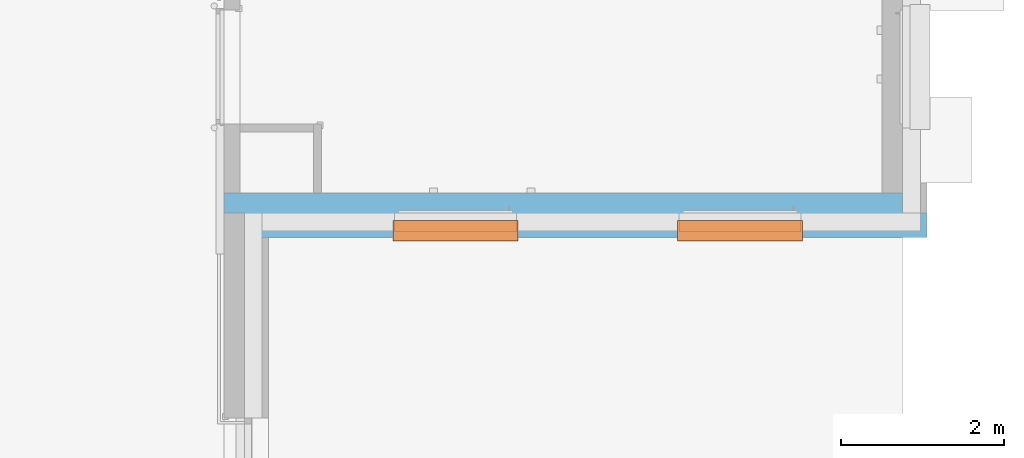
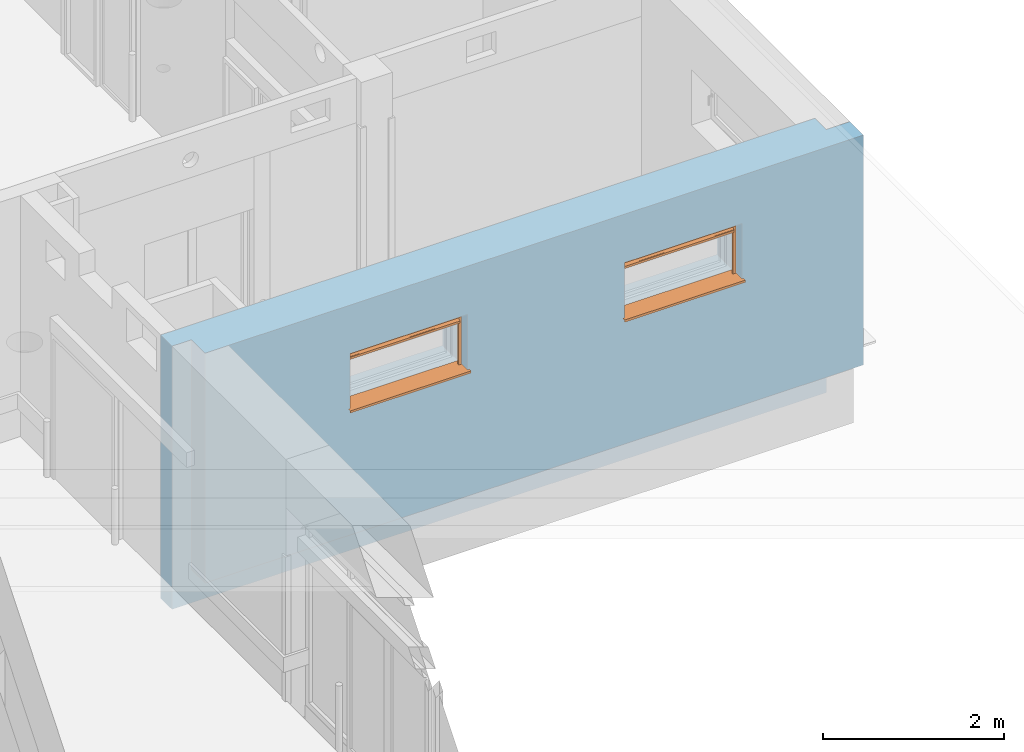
# One storey, part 108 of 140: 4 proxies, 2 openings, plus 1 element that does not belong to this part.
"""IFC4 building model written with IfcOpenShell, lengths in metres."""

from ifc_helpers import new_model, entity, si_unit, converted_unit, derived_unit, frame, origin, origin_with_axes, place, context, subcontext, project, spatial, polyline, outline, extrude, clip, bounded_halfspace, faceted_brep, source, transform, mapped, material, layer, layer_set, layer_usage, element, fill, save


model = new_model("IFC4")

# Units and contexts
model_context = context("Model", 3, precision=1e-05, world=origin())
body_context = subcontext(model_context, "Body", "Model", "MODEL_VIEW")
ifc_project = project(units=[si_unit("LENGTHUNIT", "METRE"), si_unit("AREAUNIT", "SQUARE_METRE"), si_unit("VOLUMEUNIT", "CUBIC_METRE"), si_unit("MASSUNIT", "GRAM", prefix="KILO"), converted_unit("PLANEANGLEUNIT", "DEGREE", entity("IfcPlaneAngleMeasure", 0.0174532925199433), si_unit("PLANEANGLEUNIT", "RADIAN"), dimensions=[0, 0, 0, 0, 0, 0, 0]), derived_unit("THERMALTRANSMITTANCEUNIT", [(si_unit("POWERUNIT", "WATT"), 1), (si_unit("THERMODYNAMICTEMPERATUREUNIT", "KELVIN"), -1), (si_unit("LENGTHUNIT", "METRE"), -2)]), derived_unit("VOLUMETRICFLOWRATEUNIT", [(si_unit("LENGTHUNIT", "METRE"), 3), (converted_unit("TIMEUNIT", "hour", entity("IfcTimeMeasure", 3600.0), si_unit("TIMEUNIT", "SECOND"), dimensions=[0, 0, 1, 0, 0, 0, 0]), -1), (si_unit("LENGTHUNIT", "METRE"), -1)])], contexts=[model_context])

# Site, building, storey
site_placement = place(None, origin())
site = spatial("IfcSite", under=ifc_project, at=site_placement, Name="3. ASŘ", CompositionType="ELEMENT")
building_placement = place(site_placement, origin())
building = spatial("IfcBuilding", under=site, at=building_placement, Name="Pavilon C", CompositionType="ELEMENT")
storey_placement = place(building_placement, origin())
storey = spatial("IfcBuildingStorey", under=building, at=storey_placement, Name="Půdorys 1.NP", CompositionType="ELEMENT", Elevation=0.0)

# Wall, openings, proxies
ifc_material_1 = material(Name="ZELEZOBETONOVÁ KCE")
ifc_layer_1 = layer(ifc_material_1, 0.25)
ifc_material_2 = material(Name="MINERÁLNÍ VATA")
ifc_layer_2 = layer(ifc_material_2, 0.3)
ifc_layer_set = layer_set([ifc_layer_1, ifc_layer_2])
ifc_layer_usage = layer_usage(ifc_layer_set, "AXIS2", "POSITIVE", 0.0)
wall_placement = place(storey_placement, frame((63.8, 6.59999999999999, -0.15), z_axis=(0.0, 0.0, 1.0), x_axis=(-1.0, 0.0, 0.0)))
wall = element("IfcWall", 1, at=wall_placement, inside=storey, material=ifc_layer_usage, Name="ZELEZOBETONOVÁ KCE", context=body_context, shape_type="Clipping", body=[
    clip(extrude(outline(polyline([(-8.35, -0.55), (0.0, -0.55), (0.0, -0.3), (-0.25, -0.3), (-0.25, 0.0), (-8.65, 0.0), (-8.65, -0.3), (-8.35, -0.3), (-8.35, -0.55)])), frame((8.35, 0.55, 0.0), z_axis=(0.0, 0.0, 1.0), x_axis=(1.0, 0.0, 0.0)), (0.0, 0.0, 1.0), 3.55), bounded_halfspace(frame((3.11999999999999, 0.37, 0.45), z_axis=(0.0, 0.0, 1.0), x_axis=(0.0, -1.0, 0.0)), True, origin_with_axes(), polyline([(-0.300000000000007, 0.55), (-0.300000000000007, 0.25), (-7.27595761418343e-15, 0.25), (8.09999999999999, 0.25), (8.09999999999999, 0.55), (-0.300000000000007, 0.55)]))),
])
opening_1_placement = place(wall_placement, frame((6.25, 0.25, 2.15), z_axis=(0.0, -1.0, 0.0), x_axis=(0.0, 0.0, 1.0)))
opening_1 = element("IfcOpeningElement", 2, at=opening_1_placement, cuts=wall, Name="Okenní otvor", ObjectType="Opening", context=body_context, shape_type="SweptSolid", body=[
    extrude(outline(polyline([(0.0, 1.5), (0.75, 1.5), (0.75, 0.0), (0.0, 0.0), (0.0, 1.5)])), origin_with_axes(), (0.0, 0.0, 1.0), 0.25),
    extrude(outline(polyline([(0.0, 1.5), (0.75, 1.5), (0.75, 0.0), (0.0, 0.0), (0.0, 1.5)])), frame((0.0, 0.0, -0.3), z_axis=(0.0, 0.0, 1.0), x_axis=(1.0, 0.0, 0.0)), (0.0, 0.0, 1.0), 0.3),
])
opening_2_placement = place(wall_placement, frame((2.75, 0.25, 2.15), z_axis=(0.0, -1.0, 0.0), x_axis=(0.0, 0.0, 1.0)))
opening_2 = element("IfcOpeningElement", 3, at=opening_2_placement, cuts=wall, Name="Okenní otvor", ObjectType="Opening", context=body_context, shape_type="SweptSolid", body=[
    extrude(outline(polyline([(0.0, 1.5), (0.75, 1.5), (0.75, 0.0), (0.0, 0.0), (0.0, 1.5)])), origin_with_axes(), (0.0, 0.0, 1.0), 0.25),
    extrude(outline(polyline([(0.0, 1.5), (0.75, 1.5), (0.75, 0.0), (0.0, 0.0), (0.0, 1.5)])), frame((0.0, 0.0, -0.3), z_axis=(0.0, 0.0, 1.0), x_axis=(1.0, 0.0, 0.0)), (0.0, 0.0, 1.0), 0.3),
])
ifc_material_3 = material(Name="HLINÍKOVÝ PLECH ELOXOVANÝ")
shared_shape_1 = source(origin_with_axes(), body_context, "Body", "Brep", [
    faceted_brep([(0.0, -0.3, 0.0), (0.0, -0.092, 0.0), (0.0, -0.092, 0.005), (0.0, -0.3, 0.005), (1.5, -0.3, 0.0), (1.5, -0.3, 0.005), (1.5, -0.092, 0.005), (1.5, -0.092, 0.0), (-0.02, -0.3, 0.0), (-0.02, -0.335, 0.0), (1.52, -0.335, 0.0), (1.52, -0.3, 0.0), (1.52, -0.3, 0.005), (1.52, -0.34, 0.005), (-0.02, -0.34, 0.005), (-0.02, -0.3, 0.005), (-0.02, -0.34, -0.025), (-0.02, -0.335, -0.025), (1.52, -0.335, -0.025), (1.52, -0.34, -0.025)], [[[0, 1, 2, 3]], [[4, 5, 6, 7]], [[1, 0, 8, 9, 10, 11, 4, 7]], [[2, 1, 7, 6]], [[3, 2, 6, 5, 12, 13, 14, 15]], [[8, 15, 14, 16, 17, 9]], [[11, 10, 18, 19, 13, 12]], [[15, 8, 0, 3]], [[5, 4, 11, 12]], [[16, 14, 13, 19]], [[17, 16, 19, 18]], [[9, 17, 18, 10]]], orient=[[False], [False], [False], [False], [False], [False], [False], [False], [False], [False], [False], [False]]),
    faceted_brep([(-0.02, -0.3, 0.0), (-0.02, -0.092, 0.0), (-0.02, -0.092, 0.005), (-0.02, -0.3, 0.005), (0.0, -0.3, 0.0), (0.0, -0.3, 0.005), (0.0, -0.092, 0.005), (0.0, -0.092, 0.0)], [[[0, 1, 2, 3]], [[4, 5, 6, 7]], [[1, 0, 4, 7]], [[2, 1, 7, 6]], [[3, 2, 6, 5]], [[0, 3, 5, 4]]], orient=[[False], [False], [False], [False], [False], [False]]),
    faceted_brep([(1.5, -0.3, 0.0), (1.5, -0.092, 0.0), (1.5, -0.092, 0.005), (1.5, -0.3, 0.005), (1.52, -0.3, 0.0), (1.52, -0.3, 0.005), (1.52, -0.092, 0.005), (1.52, -0.092, 0.0)], [[[0, 1, 2, 3]], [[4, 5, 6, 7]], [[1, 0, 4, 7]], [[2, 1, 7, 6]], [[3, 2, 6, 5]], [[0, 3, 5, 4]]], orient=[[False], [False], [False], [False], [False], [False]]),
])
proxy_1_placement = place(opening_1_placement, frame((0.0, 0.0, 0.0), z_axis=(1.0, 0.0, 0.0), x_axis=(0.0, 1.0, 0.0)))
proxy_1 = element("IfcBuildingElementProxy", 4, at=proxy_1_placement, inside=storey, material=ifc_material_3, Name="Parapet vnější", context=body_context, shape_type="MappedRepresentation", body=[
    mapped(shared_shape_1, transform((0.0, 0.0, 0.0), x_axis=(1.0, 0.0, 0.0), y_axis=(0.0, 1.0, 0.0), z_axis=(0.0, 0.0, 1.0), scale=1.0)),
])
fill(opening_1, proxy_1)
shared_shape_2 = source(origin_with_axes(), body_context, "Body", "Brep", [
    faceted_brep([(0.0, -0.232, 0.75), (0.0, -0.23, 0.75), (0.0, -0.23, 0.948), (0.0, -0.094, 0.948), (0.0, -0.094, 0.75), (0.0, -0.092, 0.75), (0.0, -0.092, 0.95), (0.0, -0.232, 0.95), (1.5, -0.23, 0.75), (1.5, -0.232, 0.75), (1.5, -0.232, 0.95), (1.5, -0.092, 0.95), (1.5, -0.092, 0.75), (1.5, -0.094, 0.75), (1.5, -0.094, 0.948), (1.5, -0.23, 0.948)], [[[0, 1, 2, 3, 4, 5, 6, 7]], [[8, 9, 10, 11, 12, 13, 14, 15]], [[1, 0, 9, 8]], [[2, 1, 8, 15]], [[3, 2, 15, 14]], [[4, 3, 14, 13]], [[5, 4, 13, 12]], [[6, 5, 12, 11]], [[7, 6, 11, 10]], [[0, 7, 10, 9]]], orient=[[False], [False], [False], [False], [False], [False], [False], [False], [False], [False]]),
    faceted_brep([(0.0, -0.23, 0.75), (0.0, -0.094, 0.75), (0.0, -0.094, 0.948), (0.0, -0.23, 0.948), (0.002, -0.094, 0.75), (0.002, -0.23, 0.75), (0.002, -0.23, 0.948), (0.002, -0.094, 0.948)], [[[0, 1, 2, 3]], [[4, 5, 6, 7]], [[1, 0, 5, 4]], [[2, 1, 4, 7]], [[3, 2, 7, 6]], [[0, 3, 6, 5]]], orient=[[False], [False], [False], [False], [False], [False]]),
    faceted_brep([(1.498, -0.23, 0.75), (1.498, -0.094, 0.75), (1.498, -0.094, 0.948), (1.498, -0.23, 0.948), (1.5, -0.094, 0.75), (1.5, -0.23, 0.75), (1.5, -0.23, 0.948), (1.5, -0.094, 0.948)], [[[0, 1, 2, 3]], [[4, 5, 6, 7]], [[1, 0, 5, 4]], [[2, 1, 4, 7]], [[3, 2, 7, 6]], [[0, 3, 6, 5]]], orient=[[False], [False], [False], [False], [False], [False]]),
    faceted_brep([(0.002, -0.152, 0.0), (0.002, -0.172, 0.0), (0.042, -0.172, 0.0), (0.042, -0.152, 0.0), (0.002, -0.172, 0.769), (0.002, -0.152, 0.769), (0.042, -0.152, 0.769), (0.042, -0.172, 0.769)], [[[0, 1, 2, 3]], [[4, 5, 6, 7]], [[1, 0, 5, 4]], [[2, 1, 4, 7]], [[3, 2, 7, 6]], [[0, 3, 6, 5]]], orient=[[False], [False], [False], [False], [False], [False]]),
    faceted_brep([(1.458, -0.152, 0.0), (1.458, -0.172, 0.0), (1.498, -0.172, 0.0), (1.498, -0.152, 0.0), (1.458, -0.172, 0.769), (1.458, -0.152, 0.769), (1.498, -0.152, 0.769), (1.498, -0.172, 0.769)], [[[0, 1, 2, 3]], [[4, 5, 6, 7]], [[1, 0, 5, 4]], [[2, 1, 4, 7]], [[3, 2, 7, 6]], [[0, 3, 6, 5]]], orient=[[False], [False], [False], [False], [False], [False]]),
    faceted_brep([(0.042, -0.122, 0.6021), (0.042, -0.202, 0.6021), (0.042, -0.202, 0.5871), (0.042, -0.122, 0.5871), (1.458, -0.202, 0.6021), (1.458, -0.122, 0.6021), (1.458, -0.122, 0.5871), (1.458, -0.202, 0.5871)], [[[0, 1, 2, 3]], [[4, 5, 6, 7]], [[1, 0, 5, 4]], [[2, 1, 4, 7]], [[3, 2, 7, 6]], [[0, 3, 6, 5]]], orient=[[False], [False], [False], [False], [False], [False]]),
    faceted_brep([(0.042, -0.122, 0.6031), (0.042, -0.202, 0.6031), (0.042, -0.202, 0.6021), (0.042, -0.122, 0.6021), (1.458, -0.202, 0.6031), (1.458, -0.122, 0.6031), (1.458, -0.122, 0.6021), (1.458, -0.202, 0.6021)], [[[0, 1, 2, 3]], [[4, 5, 6, 7]], [[1, 0, 5, 4]], [[2, 1, 4, 7]], [[3, 2, 7, 6]], [[0, 3, 6, 5]]], orient=[[False], [False], [False], [False], [False], [False]]),
    faceted_brep([(0.042, -0.122, 0.6041), (0.042, -0.202, 0.6041), (0.042, -0.202, 0.6031), (0.042, -0.122, 0.6031), (1.458, -0.202, 0.6041), (1.458, -0.122, 0.6041), (1.458, -0.122, 0.6031), (1.458, -0.202, 0.6031)], [[[0, 1, 2, 3]], [[4, 5, 6, 7]], [[1, 0, 5, 4]], [[2, 1, 4, 7]], [[3, 2, 7, 6]], [[0, 3, 6, 5]]], orient=[[False], [False], [False], [False], [False], [False]]),
    faceted_brep([(0.042, -0.122, 0.6051), (0.042, -0.202, 0.6051), (0.042, -0.202, 0.6041), (0.042, -0.122, 0.6041), (1.458, -0.202, 0.6051), (1.458, -0.122, 0.6051), (1.458, -0.122, 0.6041), (1.458, -0.202, 0.6041)], [[[0, 1, 2, 3]], [[4, 5, 6, 7]], [[1, 0, 5, 4]], [[2, 1, 4, 7]], [[3, 2, 7, 6]], [[0, 3, 6, 5]]], orient=[[False], [False], [False], [False], [False], [False]]),
    faceted_brep([(0.042, -0.122, 0.6061), (0.042, -0.202, 0.6061), (0.042, -0.202, 0.6051), (0.042, -0.122, 0.6051), (1.458, -0.202, 0.6061), (1.458, -0.122, 0.6061), (1.458, -0.122, 0.6051), (1.458, -0.202, 0.6051)], [[[0, 1, 2, 3]], [[4, 5, 6, 7]], [[1, 0, 5, 4]], [[2, 1, 4, 7]], [[3, 2, 7, 6]], [[0, 3, 6, 5]]], orient=[[False], [False], [False], [False], [False], [False]]),
    faceted_brep([(0.042, -0.122, 0.6071), (0.042, -0.202, 0.6071), (0.042, -0.202, 0.6061), (0.042, -0.122, 0.6061), (1.458, -0.202, 0.6071), (1.458, -0.122, 0.6071), (1.458, -0.122, 0.6061), (1.458, -0.202, 0.6061)], [[[0, 1, 2, 3]], [[4, 5, 6, 7]], [[1, 0, 5, 4]], [[2, 1, 4, 7]], [[3, 2, 7, 6]], [[0, 3, 6, 5]]], orient=[[False], [False], [False], [False], [False], [False]]),
    faceted_brep([(0.042, -0.122, 0.6081), (0.042, -0.202, 0.6081), (0.042, -0.202, 0.6071), (0.042, -0.122, 0.6071), (1.458, -0.202, 0.6081), (1.458, -0.122, 0.6081), (1.458, -0.122, 0.6071), (1.458, -0.202, 0.6071)], [[[0, 1, 2, 3]], [[4, 5, 6, 7]], [[1, 0, 5, 4]], [[2, 1, 4, 7]], [[3, 2, 7, 6]], [[0, 3, 6, 5]]], orient=[[False], [False], [False], [False], [False], [False]]),
    faceted_brep([(0.042, -0.122, 0.6091), (0.042, -0.202, 0.6091), (0.042, -0.202, 0.6081), (0.042, -0.122, 0.6081), (1.458, -0.202, 0.6091), (1.458, -0.122, 0.6091), (1.458, -0.122, 0.6081), (1.458, -0.202, 0.6081)], [[[0, 1, 2, 3]], [[4, 5, 6, 7]], [[1, 0, 5, 4]], [[2, 1, 4, 7]], [[3, 2, 7, 6]], [[0, 3, 6, 5]]], orient=[[False], [False], [False], [False], [False], [False]]),
    faceted_brep([(0.042, -0.122, 0.6101), (0.042, -0.202, 0.6101), (0.042, -0.202, 0.6091), (0.042, -0.122, 0.6091), (1.458, -0.202, 0.6101), (1.458, -0.122, 0.6101), (1.458, -0.122, 0.6091), (1.458, -0.202, 0.6091)], [[[0, 1, 2, 3]], [[4, 5, 6, 7]], [[1, 0, 5, 4]], [[2, 1, 4, 7]], [[3, 2, 7, 6]], [[0, 3, 6, 5]]], orient=[[False], [False], [False], [False], [False], [False]]),
    faceted_brep([(0.042, -0.122, 0.6111), (0.042, -0.202, 0.6111), (0.042, -0.202, 0.6101), (0.042, -0.122, 0.6101), (1.458, -0.202, 0.6111), (1.458, -0.122, 0.6111), (1.458, -0.122, 0.6101), (1.458, -0.202, 0.6101)], [[[0, 1, 2, 3]], [[4, 5, 6, 7]], [[1, 0, 5, 4]], [[2, 1, 4, 7]], [[3, 2, 7, 6]], [[0, 3, 6, 5]]], orient=[[False], [False], [False], [False], [False], [False]]),
    faceted_brep([(0.042, -0.122, 0.6121), (0.042, -0.202, 0.6121), (0.042, -0.202, 0.6111), (0.042, -0.122, 0.6111), (1.458, -0.202, 0.6121), (1.458, -0.122, 0.6121), (1.458, -0.122, 0.6111), (1.458, -0.202, 0.6111)], [[[0, 1, 2, 3]], [[4, 5, 6, 7]], [[1, 0, 5, 4]], [[2, 1, 4, 7]], [[3, 2, 7, 6]], [[0, 3, 6, 5]]], orient=[[False], [False], [False], [False], [False], [False]]),
    faceted_brep([(0.042, -0.122, 0.6131), (0.042, -0.202, 0.6131), (0.042, -0.202, 0.6121), (0.042, -0.122, 0.6121), (1.458, -0.202, 0.6131), (1.458, -0.122, 0.6131), (1.458, -0.122, 0.6121), (1.458, -0.202, 0.6121)], [[[0, 1, 2, 3]], [[4, 5, 6, 7]], [[1, 0, 5, 4]], [[2, 1, 4, 7]], [[3, 2, 7, 6]], [[0, 3, 6, 5]]], orient=[[False], [False], [False], [False], [False], [False]]),
    faceted_brep([(0.042, -0.122, 0.6141), (0.042, -0.202, 0.6141), (0.042, -0.202, 0.6131), (0.042, -0.122, 0.6131), (1.458, -0.202, 0.6141), (1.458, -0.122, 0.6141), (1.458, -0.122, 0.6131), (1.458, -0.202, 0.6131)], [[[0, 1, 2, 3]], [[4, 5, 6, 7]], [[1, 0, 5, 4]], [[2, 1, 4, 7]], [[3, 2, 7, 6]], [[0, 3, 6, 5]]], orient=[[False], [False], [False], [False], [False], [False]]),
    faceted_brep([(0.042, -0.122, 0.6151), (0.042, -0.202, 0.6151), (0.042, -0.202, 0.6141), (0.042, -0.122, 0.6141), (1.458, -0.202, 0.6151), (1.458, -0.122, 0.6151), (1.458, -0.122, 0.6141), (1.458, -0.202, 0.6141)], [[[0, 1, 2, 3]], [[4, 5, 6, 7]], [[1, 0, 5, 4]], [[2, 1, 4, 7]], [[3, 2, 7, 6]], [[0, 3, 6, 5]]], orient=[[False], [False], [False], [False], [False], [False]]),
    faceted_brep([(0.042, -0.122, 0.6161), (0.042, -0.202, 0.6161), (0.042, -0.202, 0.6151), (0.042, -0.122, 0.6151), (1.458, -0.202, 0.6161), (1.458, -0.122, 0.6161), (1.458, -0.122, 0.6151), (1.458, -0.202, 0.6151)], [[[0, 1, 2, 3]], [[4, 5, 6, 7]], [[1, 0, 5, 4]], [[2, 1, 4, 7]], [[3, 2, 7, 6]], [[0, 3, 6, 5]]], orient=[[False], [False], [False], [False], [False], [False]]),
    faceted_brep([(0.042, -0.123299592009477, 0.645125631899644), (0.042, -0.20094141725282, 0.625844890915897), (0.042, -0.200700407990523, 0.624874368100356), (0.042, -0.12305858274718, 0.644155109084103), (1.458, -0.20094141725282, 0.625844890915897), (1.458, -0.123299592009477, 0.645125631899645), (1.458, -0.12305858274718, 0.644155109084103), (1.458, -0.200700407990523, 0.624874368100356)], [[[0, 1, 2, 3]], [[4, 5, 6, 7]], [[1, 0, 5, 4]], [[2, 1, 4, 7]], [[3, 2, 7, 6]], [[0, 3, 6, 5]]], orient=[[False], [False], [False], [False], [False], [False]]),
    faceted_brep([(0.042, -0.127608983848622, 0.700433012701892), (0.042, -0.196891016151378, 0.660433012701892), (0.042, -0.196391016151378, 0.659566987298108), (0.042, -0.127108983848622, 0.699566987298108), (1.458, -0.196891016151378, 0.660433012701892), (1.458, -0.127608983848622, 0.700433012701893), (1.458, -0.127108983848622, 0.699566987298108), (1.458, -0.196391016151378, 0.659566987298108)], [[[0, 1, 2, 3]], [[4, 5, 6, 7]], [[1, 0, 5, 4]], [[2, 1, 4, 7]], [[3, 2, 7, 6]], [[0, 3, 6, 5]]], orient=[[False], [False], [False], [False], [False], [False]]),
    faceted_brep([(0.042, -0.127608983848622, 0.745433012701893), (0.042, -0.196891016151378, 0.705433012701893), (0.042, -0.196391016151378, 0.704566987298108), (0.042, -0.127108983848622, 0.744566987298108), (1.458, -0.196891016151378, 0.705433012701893), (1.458, -0.127608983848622, 0.745433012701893), (1.458, -0.127108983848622, 0.744566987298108), (1.458, -0.196391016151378, 0.704566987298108)], [[[0, 1, 2, 3]], [[4, 5, 6, 7]], [[1, 0, 5, 4]], [[2, 1, 4, 7]], [[3, 2, 7, 6]], [[0, 3, 6, 5]]], orient=[[False], [False], [False], [False], [False], [False]]),
])
proxy_2_placement = place(opening_1_placement, frame((0.0, 0.0, 0.0), z_axis=(1.0, 0.0, 0.0), x_axis=(0.0, 1.0, 0.0)))
proxy_2 = element("IfcBuildingElementProxy", 5, at=proxy_2_placement, inside=storey, Name="Žaluzie", context=body_context, shape_type="MappedRepresentation", body=[
    mapped(shared_shape_2, transform((0.0, 0.0, 0.0), x_axis=(1.0, 0.0, 0.0), y_axis=(0.0, 1.0, 0.0), z_axis=(0.0, 0.0, 1.0), scale=1.0)),
])
fill(opening_1, proxy_2)
ifc_material_4 = material(Name="HLINÍKOVÝ PLECH ELOXOVANÝ")
shared_shape_3 = source(origin_with_axes(), body_context, "Body", "Brep", [
    faceted_brep([(0.0, -0.3, 0.0), (0.0, -0.092, 0.0), (0.0, -0.092, 0.005), (0.0, -0.3, 0.005), (1.5, -0.3, 0.0), (1.5, -0.3, 0.005), (1.5, -0.092, 0.005), (1.5, -0.092, 0.0), (-0.02, -0.3, 0.0), (-0.02, -0.335, 0.0), (1.52, -0.335, 0.0), (1.52, -0.3, 0.0), (1.52, -0.3, 0.005), (1.52, -0.34, 0.005), (-0.02, -0.34, 0.005), (-0.02, -0.3, 0.005), (-0.02, -0.34, -0.025), (-0.02, -0.335, -0.025), (1.52, -0.335, -0.025), (1.52, -0.34, -0.025)], [[[0, 1, 2, 3]], [[4, 5, 6, 7]], [[1, 0, 8, 9, 10, 11, 4, 7]], [[2, 1, 7, 6]], [[3, 2, 6, 5, 12, 13, 14, 15]], [[8, 15, 14, 16, 17, 9]], [[11, 10, 18, 19, 13, 12]], [[15, 8, 0, 3]], [[5, 4, 11, 12]], [[16, 14, 13, 19]], [[17, 16, 19, 18]], [[9, 17, 18, 10]]], orient=[[False], [False], [False], [False], [False], [False], [False], [False], [False], [False], [False], [False]]),
    faceted_brep([(-0.02, -0.3, 0.0), (-0.02, -0.092, 0.0), (-0.02, -0.092, 0.005), (-0.02, -0.3, 0.005), (0.0, -0.3, 0.0), (0.0, -0.3, 0.005), (0.0, -0.092, 0.005), (0.0, -0.092, 0.0)], [[[0, 1, 2, 3]], [[4, 5, 6, 7]], [[1, 0, 4, 7]], [[2, 1, 7, 6]], [[3, 2, 6, 5]], [[0, 3, 5, 4]]], orient=[[False], [False], [False], [False], [False], [False]]),
    faceted_brep([(1.5, -0.3, 0.0), (1.5, -0.092, 0.0), (1.5, -0.092, 0.005), (1.5, -0.3, 0.005), (1.52, -0.3, 0.0), (1.52, -0.3, 0.005), (1.52, -0.092, 0.005), (1.52, -0.092, 0.0)], [[[0, 1, 2, 3]], [[4, 5, 6, 7]], [[1, 0, 4, 7]], [[2, 1, 7, 6]], [[3, 2, 6, 5]], [[0, 3, 5, 4]]], orient=[[False], [False], [False], [False], [False], [False]]),
])
proxy_3_placement = place(opening_2_placement, frame((0.0, 0.0, 0.0), z_axis=(1.0, 0.0, 0.0), x_axis=(0.0, 1.0, 0.0)))
proxy_3 = element("IfcBuildingElementProxy", 6, at=proxy_3_placement, inside=storey, material=ifc_material_4, Name="Parapet vnější", context=body_context, shape_type="MappedRepresentation", body=[
    mapped(shared_shape_3, transform((0.0, 0.0, 0.0), x_axis=(1.0, 0.0, 0.0), y_axis=(0.0, 1.0, 0.0), z_axis=(0.0, 0.0, 1.0), scale=1.0)),
])
fill(opening_2, proxy_3)
shared_shape_4 = source(origin_with_axes(), body_context, "Body", "Brep", [
    faceted_brep([(0.0, -0.232, 0.75), (0.0, -0.23, 0.75), (0.0, -0.23, 0.948), (0.0, -0.094, 0.948), (0.0, -0.094, 0.75), (0.0, -0.092, 0.75), (0.0, -0.092, 0.95), (0.0, -0.232, 0.95), (1.5, -0.23, 0.75), (1.5, -0.232, 0.75), (1.5, -0.232, 0.95), (1.5, -0.092, 0.95), (1.5, -0.092, 0.75), (1.5, -0.094, 0.75), (1.5, -0.094, 0.948), (1.5, -0.23, 0.948)], [[[0, 1, 2, 3, 4, 5, 6, 7]], [[8, 9, 10, 11, 12, 13, 14, 15]], [[1, 0, 9, 8]], [[2, 1, 8, 15]], [[3, 2, 15, 14]], [[4, 3, 14, 13]], [[5, 4, 13, 12]], [[6, 5, 12, 11]], [[7, 6, 11, 10]], [[0, 7, 10, 9]]], orient=[[False], [False], [False], [False], [False], [False], [False], [False], [False], [False]]),
    faceted_brep([(0.0, -0.23, 0.75), (0.0, -0.094, 0.75), (0.0, -0.094, 0.948), (0.0, -0.23, 0.948), (0.002, -0.094, 0.75), (0.002, -0.23, 0.75), (0.002, -0.23, 0.948), (0.002, -0.094, 0.948)], [[[0, 1, 2, 3]], [[4, 5, 6, 7]], [[1, 0, 5, 4]], [[2, 1, 4, 7]], [[3, 2, 7, 6]], [[0, 3, 6, 5]]], orient=[[False], [False], [False], [False], [False], [False]]),
    faceted_brep([(1.498, -0.23, 0.75), (1.498, -0.094, 0.75), (1.498, -0.094, 0.948), (1.498, -0.23, 0.948), (1.5, -0.094, 0.75), (1.5, -0.23, 0.75), (1.5, -0.23, 0.948), (1.5, -0.094, 0.948)], [[[0, 1, 2, 3]], [[4, 5, 6, 7]], [[1, 0, 5, 4]], [[2, 1, 4, 7]], [[3, 2, 7, 6]], [[0, 3, 6, 5]]], orient=[[False], [False], [False], [False], [False], [False]]),
    faceted_brep([(0.002, -0.152, 0.0), (0.002, -0.172, 0.0), (0.042, -0.172, 0.0), (0.042, -0.152, 0.0), (0.002, -0.172, 0.769), (0.002, -0.152, 0.769), (0.042, -0.152, 0.769), (0.042, -0.172, 0.769)], [[[0, 1, 2, 3]], [[4, 5, 6, 7]], [[1, 0, 5, 4]], [[2, 1, 4, 7]], [[3, 2, 7, 6]], [[0, 3, 6, 5]]], orient=[[False], [False], [False], [False], [False], [False]]),
    faceted_brep([(1.458, -0.152, 0.0), (1.458, -0.172, 0.0), (1.498, -0.172, 0.0), (1.498, -0.152, 0.0), (1.458, -0.172, 0.769), (1.458, -0.152, 0.769), (1.498, -0.152, 0.769), (1.498, -0.172, 0.769)], [[[0, 1, 2, 3]], [[4, 5, 6, 7]], [[1, 0, 5, 4]], [[2, 1, 4, 7]], [[3, 2, 7, 6]], [[0, 3, 6, 5]]], orient=[[False], [False], [False], [False], [False], [False]]),
    faceted_brep([(0.042, -0.122, 0.6021), (0.042, -0.202, 0.6021), (0.042, -0.202, 0.5871), (0.042, -0.122, 0.5871), (1.458, -0.202, 0.6021), (1.458, -0.122, 0.6021), (1.458, -0.122, 0.5871), (1.458, -0.202, 0.5871)], [[[0, 1, 2, 3]], [[4, 5, 6, 7]], [[1, 0, 5, 4]], [[2, 1, 4, 7]], [[3, 2, 7, 6]], [[0, 3, 6, 5]]], orient=[[False], [False], [False], [False], [False], [False]]),
    faceted_brep([(0.042, -0.122, 0.6031), (0.042, -0.202, 0.6031), (0.042, -0.202, 0.6021), (0.042, -0.122, 0.6021), (1.458, -0.202, 0.6031), (1.458, -0.122, 0.6031), (1.458, -0.122, 0.6021), (1.458, -0.202, 0.6021)], [[[0, 1, 2, 3]], [[4, 5, 6, 7]], [[1, 0, 5, 4]], [[2, 1, 4, 7]], [[3, 2, 7, 6]], [[0, 3, 6, 5]]], orient=[[False], [False], [False], [False], [False], [False]]),
    faceted_brep([(0.042, -0.122, 0.6041), (0.042, -0.202, 0.6041), (0.042, -0.202, 0.6031), (0.042, -0.122, 0.6031), (1.458, -0.202, 0.6041), (1.458, -0.122, 0.6041), (1.458, -0.122, 0.6031), (1.458, -0.202, 0.6031)], [[[0, 1, 2, 3]], [[4, 5, 6, 7]], [[1, 0, 5, 4]], [[2, 1, 4, 7]], [[3, 2, 7, 6]], [[0, 3, 6, 5]]], orient=[[False], [False], [False], [False], [False], [False]]),
    faceted_brep([(0.042, -0.122, 0.6051), (0.042, -0.202, 0.6051), (0.042, -0.202, 0.6041), (0.042, -0.122, 0.6041), (1.458, -0.202, 0.6051), (1.458, -0.122, 0.6051), (1.458, -0.122, 0.6041), (1.458, -0.202, 0.6041)], [[[0, 1, 2, 3]], [[4, 5, 6, 7]], [[1, 0, 5, 4]], [[2, 1, 4, 7]], [[3, 2, 7, 6]], [[0, 3, 6, 5]]], orient=[[False], [False], [False], [False], [False], [False]]),
    faceted_brep([(0.042, -0.122, 0.6061), (0.042, -0.202, 0.6061), (0.042, -0.202, 0.6051), (0.042, -0.122, 0.6051), (1.458, -0.202, 0.6061), (1.458, -0.122, 0.6061), (1.458, -0.122, 0.6051), (1.458, -0.202, 0.6051)], [[[0, 1, 2, 3]], [[4, 5, 6, 7]], [[1, 0, 5, 4]], [[2, 1, 4, 7]], [[3, 2, 7, 6]], [[0, 3, 6, 5]]], orient=[[False], [False], [False], [False], [False], [False]]),
    faceted_brep([(0.042, -0.122, 0.6071), (0.042, -0.202, 0.6071), (0.042, -0.202, 0.6061), (0.042, -0.122, 0.6061), (1.458, -0.202, 0.6071), (1.458, -0.122, 0.6071), (1.458, -0.122, 0.6061), (1.458, -0.202, 0.6061)], [[[0, 1, 2, 3]], [[4, 5, 6, 7]], [[1, 0, 5, 4]], [[2, 1, 4, 7]], [[3, 2, 7, 6]], [[0, 3, 6, 5]]], orient=[[False], [False], [False], [False], [False], [False]]),
    faceted_brep([(0.042, -0.122, 0.6081), (0.042, -0.202, 0.6081), (0.042, -0.202, 0.6071), (0.042, -0.122, 0.6071), (1.458, -0.202, 0.6081), (1.458, -0.122, 0.6081), (1.458, -0.122, 0.6071), (1.458, -0.202, 0.6071)], [[[0, 1, 2, 3]], [[4, 5, 6, 7]], [[1, 0, 5, 4]], [[2, 1, 4, 7]], [[3, 2, 7, 6]], [[0, 3, 6, 5]]], orient=[[False], [False], [False], [False], [False], [False]]),
    faceted_brep([(0.042, -0.122, 0.6091), (0.042, -0.202, 0.6091), (0.042, -0.202, 0.6081), (0.042, -0.122, 0.6081), (1.458, -0.202, 0.6091), (1.458, -0.122, 0.6091), (1.458, -0.122, 0.6081), (1.458, -0.202, 0.6081)], [[[0, 1, 2, 3]], [[4, 5, 6, 7]], [[1, 0, 5, 4]], [[2, 1, 4, 7]], [[3, 2, 7, 6]], [[0, 3, 6, 5]]], orient=[[False], [False], [False], [False], [False], [False]]),
    faceted_brep([(0.042, -0.122, 0.6101), (0.042, -0.202, 0.6101), (0.042, -0.202, 0.6091), (0.042, -0.122, 0.6091), (1.458, -0.202, 0.6101), (1.458, -0.122, 0.6101), (1.458, -0.122, 0.6091), (1.458, -0.202, 0.6091)], [[[0, 1, 2, 3]], [[4, 5, 6, 7]], [[1, 0, 5, 4]], [[2, 1, 4, 7]], [[3, 2, 7, 6]], [[0, 3, 6, 5]]], orient=[[False], [False], [False], [False], [False], [False]]),
    faceted_brep([(0.042, -0.122, 0.6111), (0.042, -0.202, 0.6111), (0.042, -0.202, 0.6101), (0.042, -0.122, 0.6101), (1.458, -0.202, 0.6111), (1.458, -0.122, 0.6111), (1.458, -0.122, 0.6101), (1.458, -0.202, 0.6101)], [[[0, 1, 2, 3]], [[4, 5, 6, 7]], [[1, 0, 5, 4]], [[2, 1, 4, 7]], [[3, 2, 7, 6]], [[0, 3, 6, 5]]], orient=[[False], [False], [False], [False], [False], [False]]),
    faceted_brep([(0.042, -0.122, 0.6121), (0.042, -0.202, 0.6121), (0.042, -0.202, 0.6111), (0.042, -0.122, 0.6111), (1.458, -0.202, 0.6121), (1.458, -0.122, 0.6121), (1.458, -0.122, 0.6111), (1.458, -0.202, 0.6111)], [[[0, 1, 2, 3]], [[4, 5, 6, 7]], [[1, 0, 5, 4]], [[2, 1, 4, 7]], [[3, 2, 7, 6]], [[0, 3, 6, 5]]], orient=[[False], [False], [False], [False], [False], [False]]),
    faceted_brep([(0.042, -0.122, 0.6131), (0.042, -0.202, 0.6131), (0.042, -0.202, 0.6121), (0.042, -0.122, 0.6121), (1.458, -0.202, 0.6131), (1.458, -0.122, 0.6131), (1.458, -0.122, 0.6121), (1.458, -0.202, 0.6121)], [[[0, 1, 2, 3]], [[4, 5, 6, 7]], [[1, 0, 5, 4]], [[2, 1, 4, 7]], [[3, 2, 7, 6]], [[0, 3, 6, 5]]], orient=[[False], [False], [False], [False], [False], [False]]),
    faceted_brep([(0.042, -0.122, 0.6141), (0.042, -0.202, 0.6141), (0.042, -0.202, 0.6131), (0.042, -0.122, 0.6131), (1.458, -0.202, 0.6141), (1.458, -0.122, 0.6141), (1.458, -0.122, 0.6131), (1.458, -0.202, 0.6131)], [[[0, 1, 2, 3]], [[4, 5, 6, 7]], [[1, 0, 5, 4]], [[2, 1, 4, 7]], [[3, 2, 7, 6]], [[0, 3, 6, 5]]], orient=[[False], [False], [False], [False], [False], [False]]),
    faceted_brep([(0.042, -0.122, 0.6151), (0.042, -0.202, 0.6151), (0.042, -0.202, 0.6141), (0.042, -0.122, 0.6141), (1.458, -0.202, 0.6151), (1.458, -0.122, 0.6151), (1.458, -0.122, 0.6141), (1.458, -0.202, 0.6141)], [[[0, 1, 2, 3]], [[4, 5, 6, 7]], [[1, 0, 5, 4]], [[2, 1, 4, 7]], [[3, 2, 7, 6]], [[0, 3, 6, 5]]], orient=[[False], [False], [False], [False], [False], [False]]),
    faceted_brep([(0.042, -0.122, 0.6161), (0.042, -0.202, 0.6161), (0.042, -0.202, 0.6151), (0.042, -0.122, 0.6151), (1.458, -0.202, 0.6161), (1.458, -0.122, 0.6161), (1.458, -0.122, 0.6151), (1.458, -0.202, 0.6151)], [[[0, 1, 2, 3]], [[4, 5, 6, 7]], [[1, 0, 5, 4]], [[2, 1, 4, 7]], [[3, 2, 7, 6]], [[0, 3, 6, 5]]], orient=[[False], [False], [False], [False], [False], [False]]),
    faceted_brep([(0.042, -0.123299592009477, 0.645125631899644), (0.042, -0.20094141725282, 0.625844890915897), (0.042, -0.200700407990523, 0.624874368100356), (0.042, -0.12305858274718, 0.644155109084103), (1.458, -0.20094141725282, 0.625844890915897), (1.458, -0.123299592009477, 0.645125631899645), (1.458, -0.12305858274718, 0.644155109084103), (1.458, -0.200700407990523, 0.624874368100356)], [[[0, 1, 2, 3]], [[4, 5, 6, 7]], [[1, 0, 5, 4]], [[2, 1, 4, 7]], [[3, 2, 7, 6]], [[0, 3, 6, 5]]], orient=[[False], [False], [False], [False], [False], [False]]),
    faceted_brep([(0.042, -0.127608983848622, 0.700433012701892), (0.042, -0.196891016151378, 0.660433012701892), (0.042, -0.196391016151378, 0.659566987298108), (0.042, -0.127108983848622, 0.699566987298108), (1.458, -0.196891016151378, 0.660433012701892), (1.458, -0.127608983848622, 0.700433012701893), (1.458, -0.127108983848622, 0.699566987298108), (1.458, -0.196391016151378, 0.659566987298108)], [[[0, 1, 2, 3]], [[4, 5, 6, 7]], [[1, 0, 5, 4]], [[2, 1, 4, 7]], [[3, 2, 7, 6]], [[0, 3, 6, 5]]], orient=[[False], [False], [False], [False], [False], [False]]),
    faceted_brep([(0.042, -0.127608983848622, 0.745433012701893), (0.042, -0.196891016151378, 0.705433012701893), (0.042, -0.196391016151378, 0.704566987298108), (0.042, -0.127108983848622, 0.744566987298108), (1.458, -0.196891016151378, 0.705433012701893), (1.458, -0.127608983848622, 0.745433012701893), (1.458, -0.127108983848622, 0.744566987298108), (1.458, -0.196391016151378, 0.704566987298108)], [[[0, 1, 2, 3]], [[4, 5, 6, 7]], [[1, 0, 5, 4]], [[2, 1, 4, 7]], [[3, 2, 7, 6]], [[0, 3, 6, 5]]], orient=[[False], [False], [False], [False], [False], [False]]),
])
proxy_4_placement = place(opening_2_placement, frame((0.0, 0.0, 0.0), z_axis=(1.0, 0.0, 0.0), x_axis=(0.0, 1.0, 0.0)))
proxy_4 = element("IfcBuildingElementProxy", 7, at=proxy_4_placement, inside=storey, Name="Žaluzie", context=body_context, shape_type="MappedRepresentation", body=[
    mapped(shared_shape_4, transform((0.0, 0.0, 0.0), x_axis=(1.0, 0.0, 0.0), y_axis=(0.0, 1.0, 0.0), z_axis=(0.0, 0.0, 1.0), scale=1.0)),
])
fill(opening_2, proxy_4)

save(model, "model.ifc")
